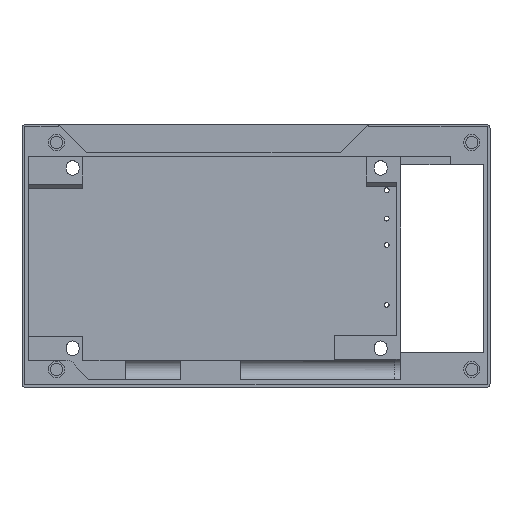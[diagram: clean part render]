
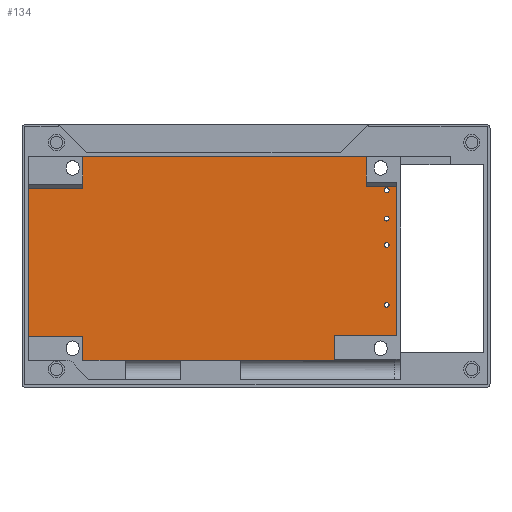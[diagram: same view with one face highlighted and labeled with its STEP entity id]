
A CAD part, top view. The second image highlights one B-rep face of the part: STEP entity #134.
In plain terms, the highlighted planar face has unit normal (0, 0, 1).
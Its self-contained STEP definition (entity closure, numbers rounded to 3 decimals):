
#134=ADVANCED_FACE('',(#1495,#1497,#1499,#1501,#1503),#1505,.T.);
#1495=FACE_BOUND('',#1496,.T.);
#1496=EDGE_LOOP('',(#2633,#2634,#2635,#2636,#2637,#2638,#2639,#2640,#2641,#2642,
#2643,#2644,#2645,#2646));
#1497=FACE_BOUND('',#1498,.T.);
#1498=EDGE_LOOP('',(#2647));
#1499=FACE_BOUND('',#1500,.T.);
#1500=EDGE_LOOP('',(#2648));
#1501=FACE_BOUND('',#1502,.T.);
#1502=EDGE_LOOP('',(#2649));
#1503=FACE_BOUND('',#1504,.T.);
#1504=EDGE_LOOP('',(#2650));
#1505=PLANE('',#1506);
#1506=AXIS2_PLACEMENT_3D('',#1507,#1508,#1509);
#1507=CARTESIAN_POINT('',(0.,0.,-23.5));
#1508=DIRECTION('',(0.,0.,1.));
#1509=DIRECTION('',(1.,0.,0.));
#2633=ORIENTED_EDGE('',*,*,#3411,.F.);
#2634=ORIENTED_EDGE('',*,*,#3412,.F.);
#2635=ORIENTED_EDGE('',*,*,#3413,.T.);
#2636=ORIENTED_EDGE('',*,*,#3414,.T.);
#2637=ORIENTED_EDGE('',*,*,#3415,.F.);
#2638=ORIENTED_EDGE('',*,*,#3416,.F.);
#2639=ORIENTED_EDGE('',*,*,#3417,.F.);
#2640=ORIENTED_EDGE('',*,*,#3418,.F.);
#2641=ORIENTED_EDGE('',*,*,#3419,.T.);
#2642=ORIENTED_EDGE('',*,*,#3420,.T.);
#2643=ORIENTED_EDGE('',*,*,#3349,.F.);
#2644=ORIENTED_EDGE('',*,*,#3410,.F.);
#2645=ORIENTED_EDGE('',*,*,#3421,.F.);
#2646=ORIENTED_EDGE('',*,*,#3398,.F.);
#2647=ORIENTED_EDGE('',*,*,#3422,.F.);
#2648=ORIENTED_EDGE('',*,*,#3423,.F.);
#2649=ORIENTED_EDGE('',*,*,#3424,.F.);
#2650=ORIENTED_EDGE('',*,*,#3425,.F.);
#3349=EDGE_CURVE('',#3748,#3750,#3751,.F.);
#3398=EDGE_CURVE('',#3843,#3846,#3847,.F.);
#3410=EDGE_CURVE('',#3865,#3748,#3867,.F.);
#3411=EDGE_CURVE('',#3868,#3843,#3869,.T.);
#3412=EDGE_CURVE('',#3870,#3868,#3871,.F.);
#3413=EDGE_CURVE('',#3870,#3872,#3873,.T.);
#3414=EDGE_CURVE('',#3872,#3874,#3875,.T.);
#3415=EDGE_CURVE('',#3876,#3874,#3877,.F.);
#3416=EDGE_CURVE('',#3878,#3876,#3879,.T.);
#3417=EDGE_CURVE('',#3880,#3878,#3881,.F.);
#3418=EDGE_CURVE('',#3882,#3880,#3883,.F.);
#3419=EDGE_CURVE('',#3882,#3884,#3885,.F.);
#3420=EDGE_CURVE('',#3884,#3750,#3886,.T.);
#3421=EDGE_CURVE('',#3846,#3865,#3887,.F.);
#3422=EDGE_CURVE('',#3888,#3888,#3889,.T.);
#3423=EDGE_CURVE('',#3890,#3890,#3891,.T.);
#3424=EDGE_CURVE('',#3892,#3892,#3893,.T.);
#3425=EDGE_CURVE('',#3894,#3894,#3895,.T.);
#3748=VERTEX_POINT('',#4421);
#3750=VERTEX_POINT('',#4425);
#3751=LINE('',#4426,#4427);
#3843=VERTEX_POINT('',#4630);
#3846=VERTEX_POINT('',#4635);
#3847=LINE('',#4636,#4637);
#3865=VERTEX_POINT('',#4678);
#3867=LINE('',#4682,#4683);
#3868=VERTEX_POINT('',#4685);
#3869=LINE('',#4686,#4687);
#3870=VERTEX_POINT('',#4689);
#3871=LINE('',#4690,#4691);
#3872=VERTEX_POINT('',#4693);
#3873=LINE('',#4694,#4695);
#3874=VERTEX_POINT('',#4697);
#3875=LINE('',#4698,#4699);
#3876=VERTEX_POINT('',#4701);
#3877=LINE('',#4702,#4703);
#3878=VERTEX_POINT('',#4705);
#3879=LINE('',#4706,#4707);
#3880=VERTEX_POINT('',#4709);
#3881=LINE('',#4710,#4711);
#3882=VERTEX_POINT('',#4713);
#3883=LINE('',#4714,#4715);
#3884=VERTEX_POINT('',#4717);
#3885=LINE('',#4718,#4719);
#3886=LINE('',#4721,#4722);
#3887=LINE('',#4724,#4725);
#3888=VERTEX_POINT('',#4727);
#3889=CIRCLE('',#4728,0.6);
#3890=VERTEX_POINT('',#4732);
#3891=CIRCLE('',#4733,0.6);
#3892=VERTEX_POINT('',#4737);
#3893=CIRCLE('',#4738,0.6);
#3894=VERTEX_POINT('',#4742);
#3895=CIRCLE('',#4743,0.6);
#4421=CARTESIAN_POINT('',(9.5,-6.5,-23.5));
#4425=CARTESIAN_POINT('',(77.5,-6.5,-23.5));
#4426=CARTESIAN_POINT('',(77.5,-6.5,-23.5));
#4427=VECTOR('',#4428,1.);
#4428=DIRECTION('',(-1.,0.,0.));
#4630=CARTESIAN_POINT('',(-4.,-50.75,-23.5));
#4635=CARTESIAN_POINT('',(-4.,-14.25,-23.5));
#4636=CARTESIAN_POINT('',(-4.,-14.25,-23.5));
#4637=VECTOR('',#4638,1.);
#4638=DIRECTION('',(0.,-1.,0.));
#4678=CARTESIAN_POINT('',(9.5,-14.25,-23.5));
#4682=CARTESIAN_POINT('',(9.5,-6.5,-23.5));
#4683=VECTOR('',#4684,1.);
#4684=DIRECTION('',(0.,-1.,0.));
#4685=CARTESIAN_POINT('',(9.5,-50.75,-23.5));
#4686=CARTESIAN_POINT('',(9.5,-50.75,-23.5));
#4687=VECTOR('',#4688,1.);
#4688=DIRECTION('',(-1.,0.,0.));
#4689=CARTESIAN_POINT('',(9.5,-56.75,-23.5));
#4690=CARTESIAN_POINT('',(9.5,-50.75,-23.5));
#4691=VECTOR('',#4692,1.);
#4692=DIRECTION('',(0.,-1.,0.));
#4693=CARTESIAN_POINT('',(71.5,-56.75,-23.5));
#4694=CARTESIAN_POINT('',(9.5,-56.75,-23.5));
#4695=VECTOR('',#4696,1.);
#4696=DIRECTION('',(1.,0.,0.));
#4697=CARTESIAN_POINT('',(71.5,-50.55,-23.5));
#4698=CARTESIAN_POINT('',(71.5,-56.75,-23.5));
#4699=VECTOR('',#4700,1.);
#4700=DIRECTION('',(0.,1.,0.));
#4701=CARTESIAN_POINT('',(86.973,-50.55,-23.5));
#4702=CARTESIAN_POINT('',(71.5,-50.55,-23.5));
#4703=VECTOR('',#4704,1.);
#4704=DIRECTION('',(1.,0.,0.));
#4705=CARTESIAN_POINT('',(86.973,-13.75,-23.5));
#4706=CARTESIAN_POINT('',(86.973,-13.75,-23.5));
#4707=VECTOR('',#4708,1.);
#4708=DIRECTION('',(0.,-1.,0.));
#4709=CARTESIAN_POINT('',(79.5,-13.75,-23.5));
#4710=CARTESIAN_POINT('',(86.973,-13.75,-23.5));
#4711=VECTOR('',#4712,1.);
#4712=DIRECTION('',(-1.,0.,0.));
#4713=CARTESIAN_POINT('',(79.5,-4.5,-23.5));
#4714=CARTESIAN_POINT('',(79.5,-13.75,-23.5));
#4715=VECTOR('',#4716,1.);
#4716=DIRECTION('',(0.,1.,0.));
#4717=CARTESIAN_POINT('',(77.5,-4.5,-23.5));
#4718=CARTESIAN_POINT('',(77.5,-4.5,-23.5));
#4719=VECTOR('',#4720,1.);
#4720=DIRECTION('',(1.,0.,0.));
#4721=CARTESIAN_POINT('',(77.5,-4.5,-23.5));
#4722=VECTOR('',#4723,1.);
#4723=DIRECTION('',(0.,-1.,0.));
#4724=CARTESIAN_POINT('',(9.5,-14.25,-23.5));
#4725=VECTOR('',#4726,1.);
#4726=DIRECTION('',(-1.,0.,0.));
#4727=CARTESIAN_POINT('',(85.1,-14.75,-23.5));
#4728=AXIS2_PLACEMENT_3D('',#4729,#4730,#4731);
#4729=CARTESIAN_POINT('',(84.5,-14.75,-23.5));
#4730=DIRECTION('',(0.,0.,1.));
#4731=DIRECTION('',(1.,0.,0.));
#4732=CARTESIAN_POINT('',(85.1,-43.05,-23.5));
#4733=AXIS2_PLACEMENT_3D('',#4734,#4735,#4736);
#4734=CARTESIAN_POINT('',(84.5,-43.05,-23.5));
#4735=DIRECTION('',(0.,0.,1.));
#4736=DIRECTION('',(1.,0.,0.));
#4737=CARTESIAN_POINT('',(85.1,-28.25,-23.5));
#4738=AXIS2_PLACEMENT_3D('',#4739,#4740,#4741);
#4739=CARTESIAN_POINT('',(84.5,-28.25,-23.5));
#4740=DIRECTION('',(0.,0.,1.));
#4741=DIRECTION('',(1.,0.,0.));
#4742=CARTESIAN_POINT('',(85.1,-21.75,-23.5));
#4743=AXIS2_PLACEMENT_3D('',#4744,#4745,#4746);
#4744=CARTESIAN_POINT('',(84.5,-21.75,-23.5));
#4745=DIRECTION('',(0.,0.,1.));
#4746=DIRECTION('',(1.,0.,0.));
